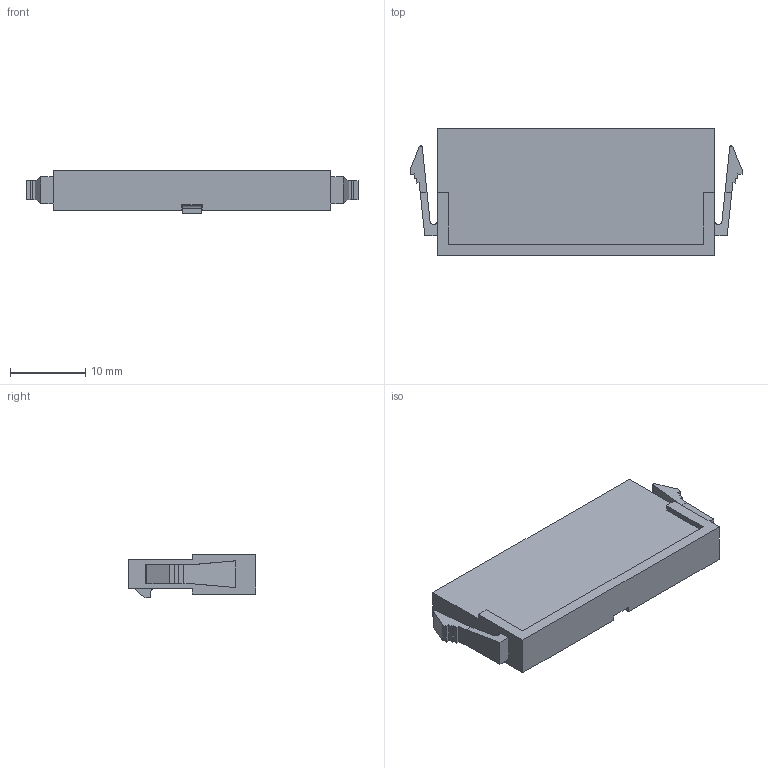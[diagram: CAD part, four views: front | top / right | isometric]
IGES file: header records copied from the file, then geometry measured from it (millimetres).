
Start section: SolidWorks IGES file using analytic representation for surfaces
Global section: file name: C:\Users\rd02\Desktop\3D照片圖1050603\4976-1X12FHB\4976-1X12FHB.IGS,15; native system: HSolidWorks 2011; preprocessor: SolidWorks 2011; author: rd02; date: 160620.160648; units: millimetre
Bounding box: 44.06 x 16.89 x 5.78 mm (x, y, z)
Surface area: 2530.1 mm2 (no closed solid volume)
Topology: 0 solids, 0 shells, 134 faces, 768 edges, 768 vertices
Faces by surface type: bspline 127, revolution 7
